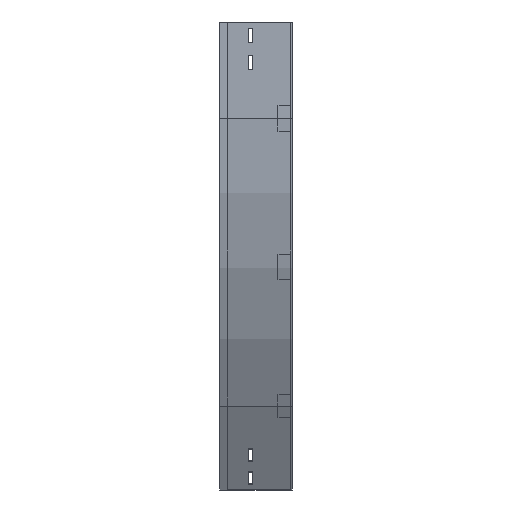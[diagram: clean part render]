
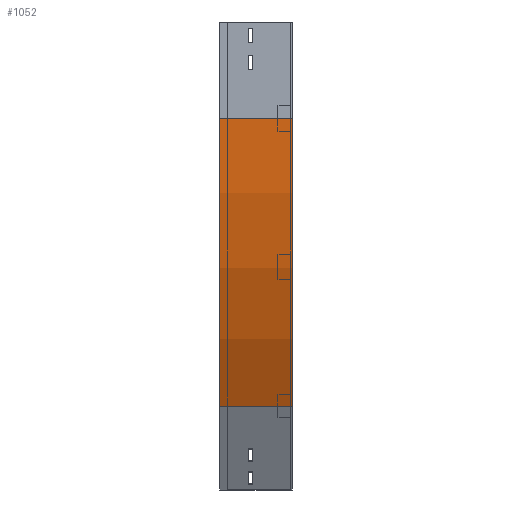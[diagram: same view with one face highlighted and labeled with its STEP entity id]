
A CAD part, left-side view. The second image highlights one B-rep face of the part: STEP entity #1052.
In plain terms, the highlighted cylindrical face has radius 900 mm (diameter 1800 mm), a partial arc.
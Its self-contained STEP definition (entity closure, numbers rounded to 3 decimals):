
#178 = CARTESIAN_POINT ( 'NONE',  ( 0., 0., -150. ) ) ;
#195 = CARTESIAN_POINT ( 'NONE',  ( 0., 112.5, -150. ) ) ;
#250 = CIRCLE ( 'NONE', #502, 900. ) ;
#447 = LINE ( 'NONE', #3385, #2742 ) ;
#502 = AXIS2_PLACEMENT_3D ( 'NONE', #1191, #2370, #2201 ) ;
#650 = EDGE_CURVE ( 'NONE', #856, #3684, #1603, .T. ) ;
#695 = DIRECTION ( 'NONE',  ( 0., -1., 0. ) ) ;
#856 = VERTEX_POINT ( 'NONE', #195 ) ;
#983 = FACE_OUTER_BOUND ( 'NONE', #1028, .T. ) ;
#1028 = EDGE_LOOP ( 'NONE', ( #2371, #1439, #3747, #3812 ) ) ;
#1052 = ADVANCED_FACE ( 'NONE', ( #983 ), #1254, .T. ) ;
#1191 = CARTESIAN_POINT ( 'NONE',  ( 900., 0., -150. ) ) ;
#1254 = CYLINDRICAL_SURFACE ( 'NONE', #2716, 900. ) ;
#1302 = DIRECTION ( 'NONE',  ( 0., 0., -1. ) ) ;
#1439 = ORIENTED_EDGE ( 'NONE', *, *, #650, .F. ) ;
#1603 = LINE ( 'NONE', #2150, #3772 ) ;
#1726 = VERTEX_POINT ( 'NONE', #3579 ) ;
#1749 = VERTEX_POINT ( 'NONE', #2096 ) ;
#2096 = CARTESIAN_POINT ( 'NONE',  ( 120.577, 0., -600. ) ) ;
#2150 = CARTESIAN_POINT ( 'NONE',  ( 0., 0., -150. ) ) ;
#2201 = DIRECTION ( 'NONE',  ( -1., 0., 0. ) ) ;
#2211 = DIRECTION ( 'NONE',  ( 0., -1., 0. ) ) ;
#2339 = EDGE_CURVE ( 'NONE', #1726, #1749, #447, .T. ) ;
#2370 = DIRECTION ( 'NONE',  ( 0., -1., 0. ) ) ;
#2371 = ORIENTED_EDGE ( 'NONE', *, *, #3002, .F. ) ;
#2436 = DIRECTION ( 'NONE',  ( 0., -1., 0. ) ) ;
#2439 = CARTESIAN_POINT ( 'NONE',  ( 900., 0., -150. ) ) ;
#2627 = EDGE_CURVE ( 'NONE', #856, #1726, #3665, .T. ) ;
#2716 = AXIS2_PLACEMENT_3D ( 'NONE', #2439, #695, #1302 ) ;
#2742 = VECTOR ( 'NONE', #2211, 1000. ) ;
#2762 = DIRECTION ( 'NONE',  ( -1., 0., 0. ) ) ;
#3002 = EDGE_CURVE ( 'NONE', #3684, #1749, #250, .T. ) ;
#3323 = CARTESIAN_POINT ( 'NONE',  ( 900., 112.5, -150. ) ) ;
#3351 = DIRECTION ( 'NONE',  ( 0., -1., 0. ) ) ;
#3385 = CARTESIAN_POINT ( 'NONE',  ( 120.577, 0., -600. ) ) ;
#3539 = AXIS2_PLACEMENT_3D ( 'NONE', #3323, #2436, #2762 ) ;
#3579 = CARTESIAN_POINT ( 'NONE',  ( 120.577, 112.5, -600. ) ) ;
#3665 = CIRCLE ( 'NONE', #3539, 900. ) ;
#3684 = VERTEX_POINT ( 'NONE', #178 ) ;
#3747 = ORIENTED_EDGE ( 'NONE', *, *, #2627, .T. ) ;
#3772 = VECTOR ( 'NONE', #3351, 1000. ) ;
#3812 = ORIENTED_EDGE ( 'NONE', *, *, #2339, .T. ) ;
